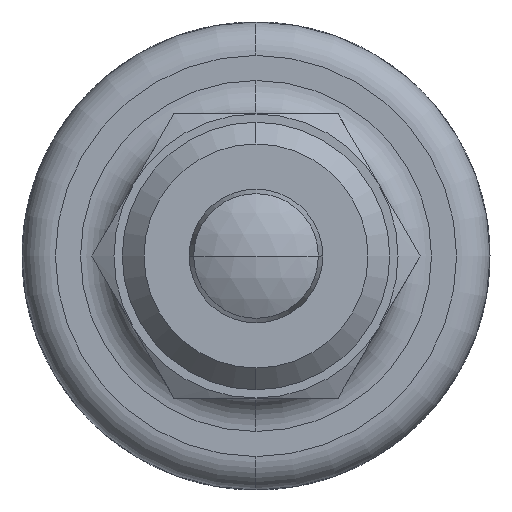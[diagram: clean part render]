
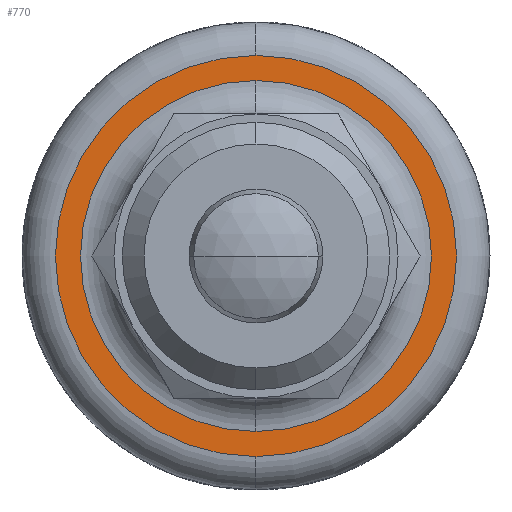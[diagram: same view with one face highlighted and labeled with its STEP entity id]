
A CAD part, front view. The second image highlights one B-rep face of the part: STEP entity #770.
In plain terms, the highlighted planar face has unit normal (0, -1, 0).
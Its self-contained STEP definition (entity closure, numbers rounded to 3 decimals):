
#591 = ORIENTED_EDGE ( 'NONE', *, *, #602, .T. ) ;
#594 = EDGE_LOOP ( 'NONE', ( #591, #825 ) ) ;
#602 = EDGE_CURVE ( 'NONE', #943, #942, #4701, .T. ) ;
#607 = ORIENTED_EDGE ( 'NONE', *, *, #3529, .T. ) ;
#608 = EDGE_CURVE ( 'NONE', #3531, #3530, #4736, .T. ) ;
#754 = EDGE_LOOP ( 'NONE', ( #852, #607 ) ) ;
#770 = ADVANCED_FACE ( 'NONE', ( #5015, #5014 ), #5013, .F. ) ;
#825 = ORIENTED_EDGE ( 'NONE', *, *, #945, .T. ) ;
#852 = ORIENTED_EDGE ( 'NONE', *, *, #608, .T. ) ;
#942 = VERTEX_POINT ( 'NONE', #5265 ) ;
#943 = VERTEX_POINT ( 'NONE', #5261 ) ;
#945 = EDGE_CURVE ( 'NONE', #942, #943, #5321, .T. ) ;
#3529 = EDGE_CURVE ( 'NONE', #3530, #3531, #9632, .T. ) ;
#3530 = VERTEX_POINT ( 'NONE', #9628 ) ;
#3531 = VERTEX_POINT ( 'NONE', #9627 ) ;
#4675 = CARTESIAN_POINT ( 'NONE',  ( 0., 16., 0. ) ) ;
#4697 = DIRECTION ( 'NONE',  ( 0., 0., 1. ) ) ;
#4698 = DIRECTION ( 'NONE',  ( 0., -1., 0. ) ) ;
#4699 = CARTESIAN_POINT ( 'NONE',  ( 0., 16., 0. ) ) ;
#4700 = AXIS2_PLACEMENT_3D ( 'NONE', #4699, #4698, #4697 ) ;
#4701 = CIRCLE ( 'NONE', #4700, 12. ) ;
#4733 = DIRECTION ( 'NONE',  ( 0., 0., 1. ) ) ;
#4734 = DIRECTION ( 'NONE',  ( 0., 1., 0. ) ) ;
#4735 = AXIS2_PLACEMENT_3D ( 'NONE', #4675, #4734, #4733 ) ;
#4736 = CIRCLE ( 'NONE', #4735, 10.5 ) ;
#5009 = DIRECTION ( 'NONE',  ( 0., 0., 1. ) ) ;
#5010 = DIRECTION ( 'NONE',  ( 0., 1., 0. ) ) ;
#5011 = CARTESIAN_POINT ( 'NONE',  ( 0., 16., 0. ) ) ;
#5012 = AXIS2_PLACEMENT_3D ( 'NONE', #5011, #5010, #5009 ) ;
#5013 = PLANE ( 'NONE',  #5012 ) ;
#5014 = FACE_OUTER_BOUND ( 'NONE', #594, .T. ) ;
#5015 = FACE_BOUND ( 'NONE', #754, .T. ) ;
#5261 = CARTESIAN_POINT ( 'NONE',  ( 0., 16., 12. ) ) ;
#5265 = CARTESIAN_POINT ( 'NONE',  ( 0., 16., -12. ) ) ;
#5317 = DIRECTION ( 'NONE',  ( 0., 0., 1. ) ) ;
#5318 = DIRECTION ( 'NONE',  ( 0., -1., 0. ) ) ;
#5319 = CARTESIAN_POINT ( 'NONE',  ( 0., 16., 0. ) ) ;
#5320 = AXIS2_PLACEMENT_3D ( 'NONE', #5319, #5318, #5317 ) ;
#5321 = CIRCLE ( 'NONE', #5320, 12. ) ;
#9627 = CARTESIAN_POINT ( 'NONE',  ( 0., 16., 10.5 ) ) ;
#9628 = CARTESIAN_POINT ( 'NONE',  ( 0., 16., -10.5 ) ) ;
#9629 = DIRECTION ( 'NONE',  ( 0., 0., 1. ) ) ;
#9630 = DIRECTION ( 'NONE',  ( 0., 1., 0. ) ) ;
#9631 = AXIS2_PLACEMENT_3D ( 'NONE', #9638, #9630, #9629 ) ;
#9632 = CIRCLE ( 'NONE', #9631, 10.5 ) ;
#9638 = CARTESIAN_POINT ( 'NONE',  ( 0., 16., 0. ) ) ;
